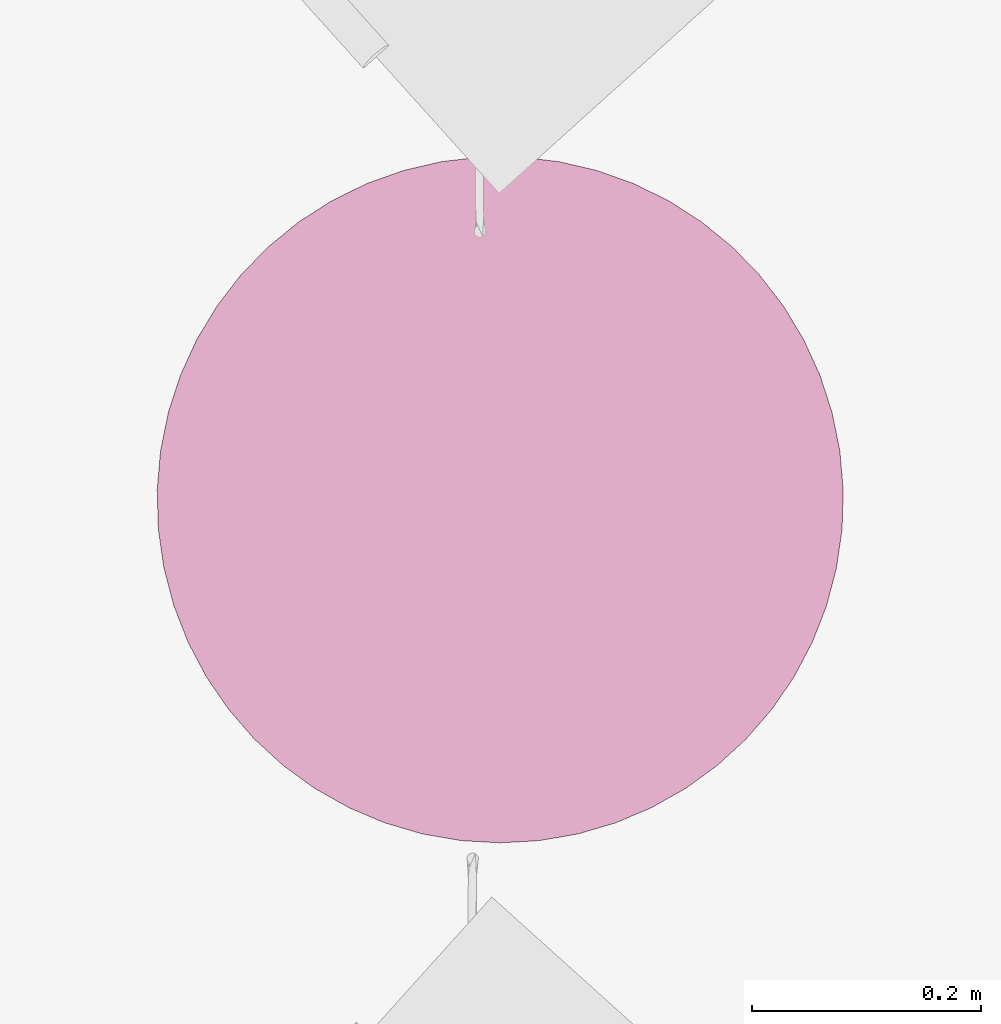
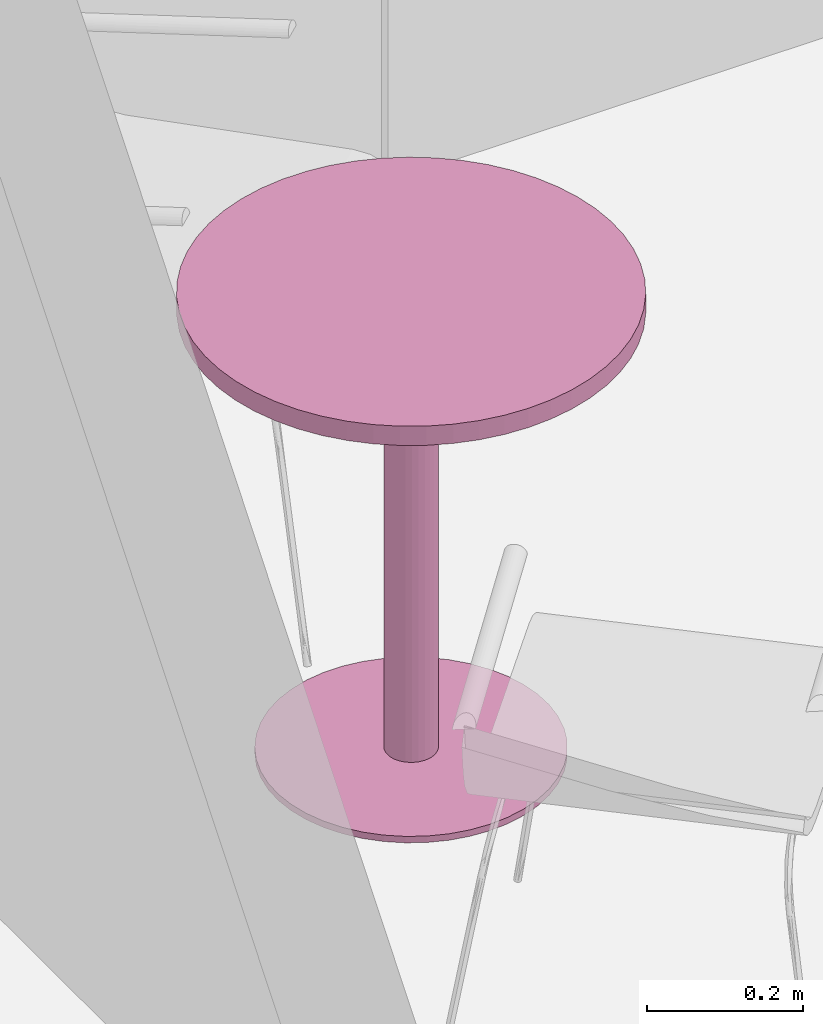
# One storey, part 44 of 58: 1 furnishing.
"""IFC2X3 building model written with IfcOpenShell, lengths in millimetres."""

from ifc_helpers import new_model, entity, si_unit, converted_unit, derived_unit, direction, frame, frame_2d, origin, place, context, subcontext, project, spatial, circle, extrude, source, transform, mapped, material, material_list, type_object, type_shapes, element, save


model = new_model("IFC2X3")

# Units and contexts
model_context = context("Model", 3, precision=0.01, world=origin(), true_north=direction((0.7716245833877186, 0.6360782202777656)))
body_context = subcontext(model_context, "Body", "Model", "MODEL_VIEW")
ifc_project = project(units=[si_unit("LENGTHUNIT", "METRE", prefix="MILLI"), si_unit("AREAUNIT", "SQUARE_METRE"), converted_unit("PLANEANGLEUNIT", "DEGREE", entity("IfcPlaneAngleMeasure", 0.017453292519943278), si_unit("PLANEANGLEUNIT", "RADIAN"), dimensions=[0, 0, 0, 0, 0, 0, 0]), derived_unit("THERMALTRANSMITTANCEUNIT", [(si_unit("MASSUNIT", "GRAM", prefix="KILO"), 1), (si_unit("THERMODYNAMICTEMPERATUREUNIT", "KELVIN"), -1), (si_unit("TIMEUNIT", "SECOND"), -3)])], contexts=[model_context])

# Site, building, storey, space
site_placement = place(None, origin())
site = spatial("IfcSite", under=ifc_project, at=site_placement, Name="Default", CompositionType="ELEMENT")
building_placement = place(site_placement, origin())
building = spatial("IfcBuilding", under=site, at=building_placement, CompositionType="ELEMENT")
storey_placement = place(building_placement, frame((0.0, 0.0, 31140.0)))
storey = spatial("IfcBuildingStorey", under=building, at=storey_placement, Name="PLAN U1", CompositionType="ELEMENT", Elevation=31140.000000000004)
space_placement = place(storey_placement, origin())
space = spatial("IfcSpace", under=storey, at=space_placement, Name="Kontor", CompositionType="ELEMENT", InteriorOrExteriorSpace="INTERNAL")

# Furnishing
ifc_material_1 = material(Name="Plate")
ifc_material_2 = material(Name="Metall")
ifc_material_list = material_list([ifc_material_1, ifc_material_2])
furniture_type = type_object("IfcFurnitureType", Name="Bord-rundt:Bord, Ø600", AssemblyPlace="NOTDEFINED", material=ifc_material_list)
shared_shape = source(origin(), body_context, "Body", "SweptSolid", [
    extrude(circle(Radius=300.0, at=frame_2d((0.0, -1.4172507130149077e-12), x_axis=(1.0, 0.0))), frame((0.0, 0.0, 690.0)), (0.0, 0.0, 1.0), 29.99999999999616),
    extrude(circle(Radius=35.0, at=frame_2d((-4.3957322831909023e-16, -1.575743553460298e-13), x_axis=(1.0, 0.0))), frame((0.0, 0.0, 10.0)), (0.0, 0.0, 1.0), 680.0000000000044),
    extrude(circle(Radius=200.0, at=frame_2d((-8.4218585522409e-15, -9.448338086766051e-13), x_axis=(1.0, 0.0))), origin(), (0.0, 0.0, 1.0), 10.000000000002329),
])
type_shapes(furniture_type, [shared_shape])
furnishing_placement = place(space_placement, frame((264113.823699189, 56410.464736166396, 0.0), z_axis=(0.0, 0.0, 1.0), x_axis=(0.0, -1.0, 0.0)))
element("IfcFurnishingElement", 1, at=furnishing_placement, inside=space, type_object=furniture_type, material=ifc_material_list, Name="Bord-rundt:Bord, Ø600", ObjectType="Bord-rundt:Bord, Ø600", context=body_context, shape_type="MappedRepresentation", body=[
    mapped(shared_shape, transform((0.0, 0.0, 0.0), scale=1.0)),
])

save(model, "model.ifc")
